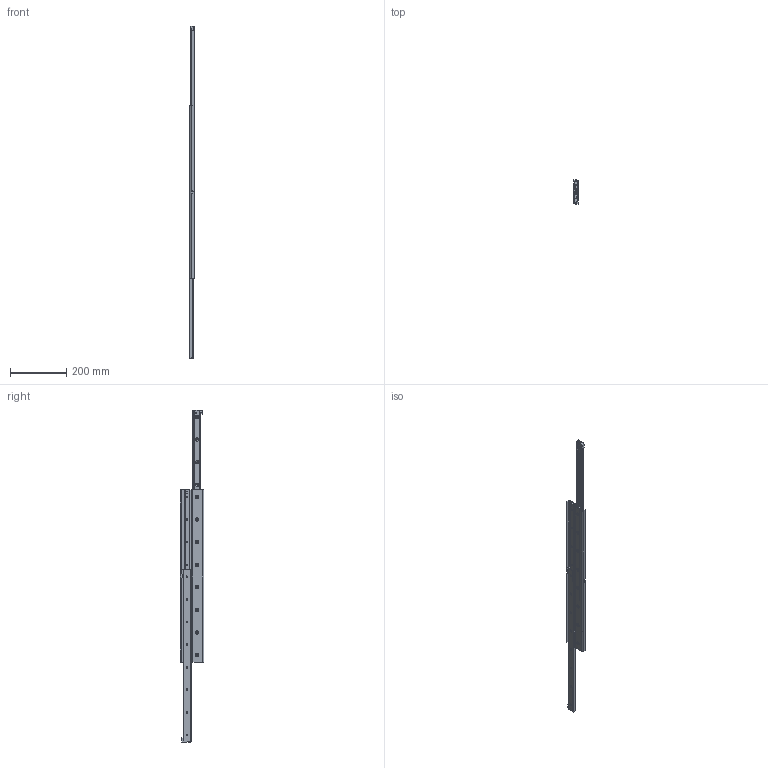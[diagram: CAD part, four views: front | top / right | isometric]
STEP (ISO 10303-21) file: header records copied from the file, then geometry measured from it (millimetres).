
FILE_DESCRIPTION (( 'STEP AP203' ), '1' );
FILE_NAME ('L1984.28D-0610.step', '2018-07-03T12:14:26', ( '' ), ( '' ), 'SwSTEP 2.0', 'SolidWorks 2017', '' );
FILE_SCHEMA (( 'CONFIG_CONTROL_DESIGN' ));
Length unit declared in the file: millimetre
Products named in the file (5): Part1_L1984.28D-0610; Part2_L1984.28D-0610; L1984.28D-0610; Part3_L1984.28D-0610; Part0_L1984.28D-0610
Assembly tree (7 placements, depth 2):
  L1984.28D-0610
    Part0_L1984.28D-0610
    Part2_L1984.28D-0610  x2
    Part1_L1984.28D-0610  x2
    Part3_L1984.28D-0610  x2
Bounding box: 17 x 84 x 1176 mm (x, y, z)
Volume: 524409.5 mm3; surface area: 360700.1 mm2
Topology: 7 solids, 7 shells, 512 faces, 1318 edges, 876 vertices
Faces by surface type: plane 346, cylinder 102, cone 64
Entity records: 11396 total; most frequent: CARTESIAN_POINT 1880, DIRECTION 1853, ORIENTED_EDGE 1818, EDGE_CURVE 909, VECTOR 699, LINE 699, VERTEX_POINT 604, AXIS2_PLACEMENT_3D 577
